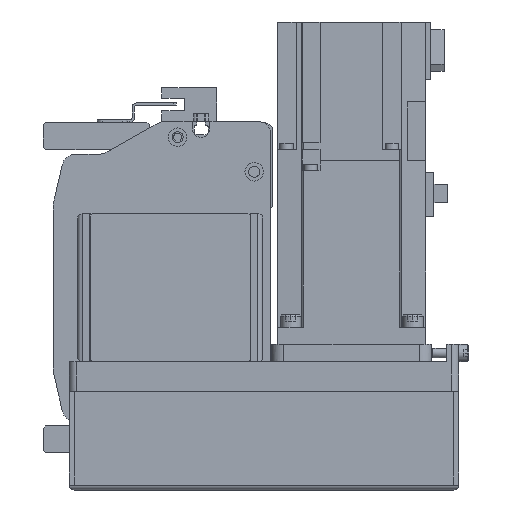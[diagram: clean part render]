
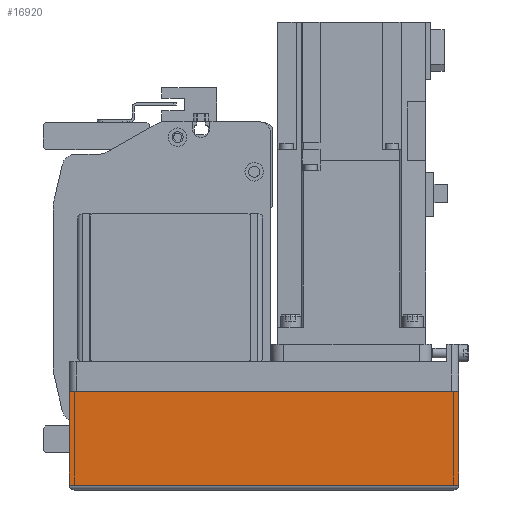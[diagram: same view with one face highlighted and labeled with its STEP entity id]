
A CAD part, left-side view. The second image highlights one B-rep face of the part: STEP entity #16920.
In plain terms, the highlighted planar face has unit normal (-1, 0, 0) as drawn and (0, 1, 0) by its records, which use the part's own axes.
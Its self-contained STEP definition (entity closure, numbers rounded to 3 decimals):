
#2652=ORIENTED_EDGE('',*,*,#6797,.F.);
#2653=ORIENTED_EDGE('',*,*,#6866,.F.);
#2654=ORIENTED_EDGE('',*,*,#6814,.T.);
#2655=ORIENTED_EDGE('',*,*,#6789,.T.);
#6789=EDGE_CURVE('',#9048,#9047,#10773,.T.);
#6797=EDGE_CURVE('',#9055,#9047,#10781,.T.);
#6814=EDGE_CURVE('',#9065,#9048,#10794,.T.);
#6866=EDGE_CURVE('',#9065,#9055,#10823,.T.);
#9047=VERTEX_POINT('',#25992);
#9048=VERTEX_POINT('',#25994);
#9055=VERTEX_POINT('',#26011);
#9065=VERTEX_POINT('',#26042);
#10773=LINE('',#25993,#12373);
#10781=LINE('',#26010,#12381);
#10794=LINE('',#26041,#12394);
#10823=LINE('',#26136,#12423);
#12373=VECTOR('',#20805,1000.);
#12381=VECTOR('',#20817,1000.);
#12394=VECTOR('',#20846,1000.);
#12423=VECTOR('',#20963,1000.);
#13850=EDGE_LOOP('',(#2652,#2653,#2654,#2655));
#15110=FACE_BOUND('',#13850,.T.);
#16199=PLANE('',#18153);
#16920=ADVANCED_FACE('',(#15110),#16199,.T.);
#18153=AXIS2_PLACEMENT_3D('',#26135,#20961,#20962);
#20805=DIRECTION('',(1.,0.,0.));
#20817=DIRECTION('',(0.,0.,1.));
#20846=DIRECTION('',(0.,0.,1.));
#20961=DIRECTION('',(0.,1.,0.));
#20962=DIRECTION('',(0.,0.,1.));
#20963=DIRECTION('',(1.,0.,0.));
#25992=CARTESIAN_POINT('',(0.,39.,-12.1));
#25993=CARTESIAN_POINT('',(-158.,39.,-12.1));
#25994=CARTESIAN_POINT('',(-158.,39.,-12.1));
#26010=CARTESIAN_POINT('',(0.,39.,-50.));
#26011=CARTESIAN_POINT('',(0.,39.,-50.));
#26041=CARTESIAN_POINT('',(-158.,39.,-50.));
#26042=CARTESIAN_POINT('',(-158.,39.,-50.));
#26135=CARTESIAN_POINT('',(-158.,39.,-50.));
#26136=CARTESIAN_POINT('',(-158.,39.,-50.));
